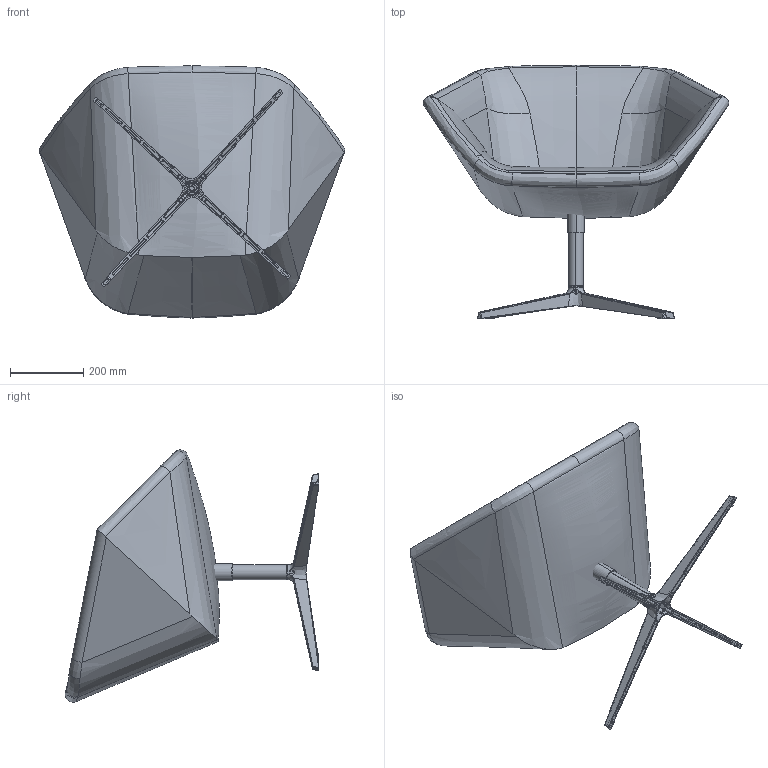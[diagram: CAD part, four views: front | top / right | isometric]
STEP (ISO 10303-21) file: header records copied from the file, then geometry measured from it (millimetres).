
FILE_DESCRIPTION (( 'STEP AP203' ), '1' );
FILE_NAME ('Ella draaivoet.STEP', '2010-01-29T11:17:10', ( ' ' ), ( '' ), 'SwSTEP 2.0', 'SolidWorks 2010', '' );
FILE_SCHEMA (( 'CONFIG_CONTROL_DESIGN' ));
Products named in the file (1): Ella draaivoet
Bounding box: 834.19 x 691.94 x 687.8 mm (x, y, z)
Volume: 47553353.2 mm3; surface area: 1671556 mm2
Topology: 4 solids, 8 shells, 886 faces, 2194 edges, 1265 vertices
Faces by surface type: bspline 531, sphere 92, plane 87, cylinder 80, torus 50, cone 46
Entity records: 115160 total; most frequent: CARTESIAN_POINT 98801, ORIENTED_EDGE 4100, DIRECTION 2122, EDGE_CURVE 2050, B_SPLINE_CURVE_WITH_KNOTS 1215, VERTEX_POINT 1201, AXIS2_PLACEMENT_3D 949, EDGE_LOOP 911
